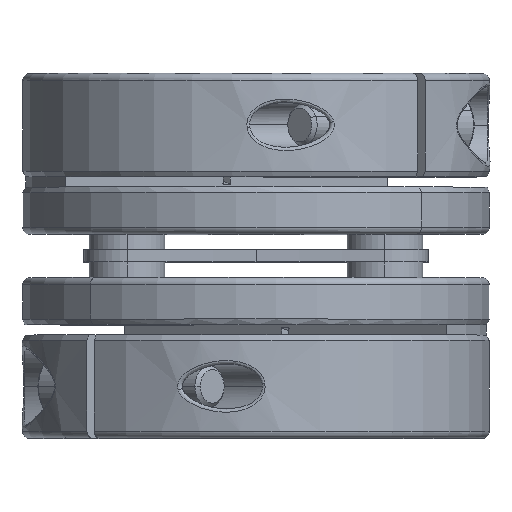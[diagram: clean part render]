
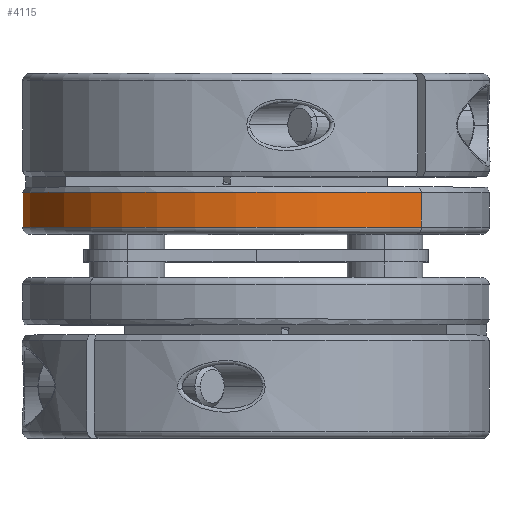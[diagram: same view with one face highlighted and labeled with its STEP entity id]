
A CAD part, top view. The second image highlights one B-rep face of the part: STEP entity #4115.
In plain terms, the highlighted cylindrical face has radius 34 mm (diameter 68 mm), a partial arc.
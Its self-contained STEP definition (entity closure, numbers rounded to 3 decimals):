
#178 = LINE ( 'NONE', #701, #5752 ) ;
#325 = AXIS2_PLACEMENT_3D ( 'NONE', #2571, #6847, #1453 ) ;
#701 = CARTESIAN_POINT ( 'NONE',  ( -34., 11.675, 0. ) ) ;
#893 = EDGE_CURVE ( 'NONE', #6664, #4014, #178, .T. ) ;
#1125 = VERTEX_POINT ( 'NONE', #5132 ) ;
#1424 = AXIS2_PLACEMENT_3D ( 'NONE', #4944, #6603, #5508 ) ;
#1453 = DIRECTION ( 'NONE',  ( -1., 0., 0. ) ) ;
#1950 = LINE ( 'NONE', #4592, #2651 ) ;
#2189 = ORIENTED_EDGE ( 'NONE', *, *, #3778, .T. ) ;
#2526 = ORIENTED_EDGE ( 'NONE', *, *, #893, .F. ) ;
#2563 = DIRECTION ( 'NONE',  ( 0., 1., 0. ) ) ;
#2571 = CARTESIAN_POINT ( 'NONE',  ( 0., 11.675, 0. ) ) ;
#2651 = VECTOR ( 'NONE', #4065, 1000. ) ;
#2713 = EDGE_CURVE ( 'NONE', #4014, #1125, #4767, .T. ) ;
#2810 = ORIENTED_EDGE ( 'NONE', *, *, #2713, .F. ) ;
#2892 = EDGE_CURVE ( 'NONE', #3276, #1125, #1950, .T. ) ;
#3071 = DIRECTION ( 'NONE',  ( -1., 0., 0. ) ) ;
#3082 = CYLINDRICAL_SURFACE ( 'NONE', #325, 34. ) ;
#3276 = VERTEX_POINT ( 'NONE', #3918 ) ;
#3778 = EDGE_CURVE ( 'NONE', #6664, #3276, #4667, .T. ) ;
#3918 = CARTESIAN_POINT ( 'NONE',  ( 34., -10.675, 0. ) ) ;
#3979 = ORIENTED_EDGE ( 'NONE', *, *, #2892, .T. ) ;
#4014 = VERTEX_POINT ( 'NONE', #6138 ) ;
#4065 = DIRECTION ( 'NONE',  ( 0., 1., 0. ) ) ;
#4115 = ADVANCED_FACE ( 'NONE', ( #6925 ), #3082, .T. ) ;
#4592 = CARTESIAN_POINT ( 'NONE',  ( 34., 11.675, 0. ) ) ;
#4667 = CIRCLE ( 'NONE', #6577, 34. ) ;
#4767 = CIRCLE ( 'NONE', #1424, 34. ) ;
#4944 = CARTESIAN_POINT ( 'NONE',  ( 0., -5.615, 0. ) ) ;
#5132 = CARTESIAN_POINT ( 'NONE',  ( 34., -5.615, 0. ) ) ;
#5508 = DIRECTION ( 'NONE',  ( -1., 0., 0. ) ) ;
#5752 = VECTOR ( 'NONE', #6016, 1000. ) ;
#6016 = DIRECTION ( 'NONE',  ( 0., 1., 0. ) ) ;
#6138 = CARTESIAN_POINT ( 'NONE',  ( -34., -5.615, 0. ) ) ;
#6365 = CARTESIAN_POINT ( 'NONE',  ( 0., -10.675, 0. ) ) ;
#6506 = EDGE_LOOP ( 'NONE', ( #2189, #3979, #2810, #2526 ) ) ;
#6577 = AXIS2_PLACEMENT_3D ( 'NONE', #6365, #2563, #3071 ) ;
#6603 = DIRECTION ( 'NONE',  ( 0., 1., 0. ) ) ;
#6664 = VERTEX_POINT ( 'NONE', #6921 ) ;
#6847 = DIRECTION ( 'NONE',  ( 0., 1., 0. ) ) ;
#6921 = CARTESIAN_POINT ( 'NONE',  ( -34., -10.675, 0. ) ) ;
#6925 = FACE_OUTER_BOUND ( 'NONE', #6506, .T. ) ;
